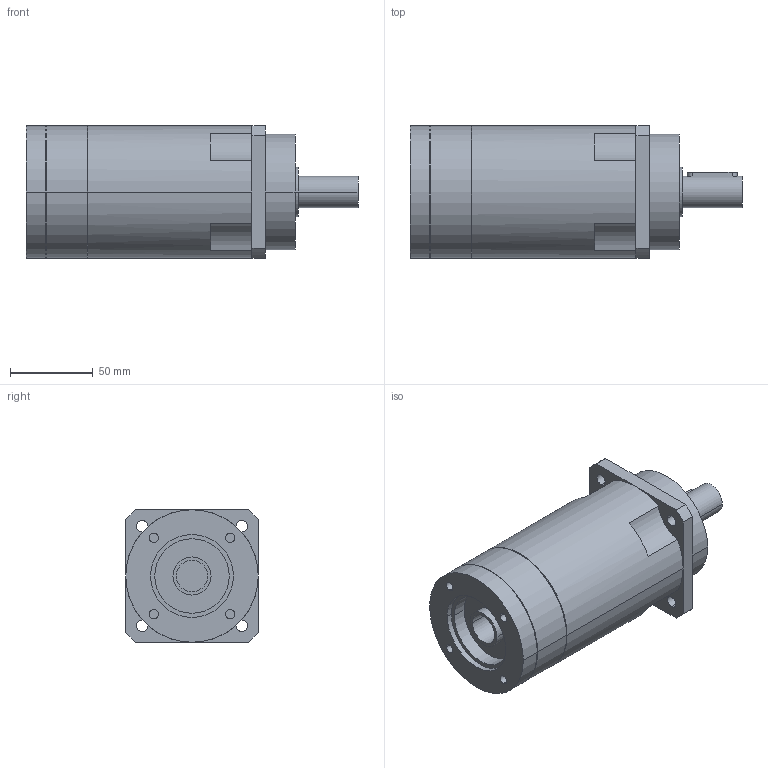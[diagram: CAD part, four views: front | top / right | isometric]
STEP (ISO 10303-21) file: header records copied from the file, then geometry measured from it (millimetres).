
FILE_DESCRIPTION(('CoCreate Modeling STEP Export'),'2;1');
FILE_NAME('GPR100_ig-48-64-80-100-120-144-180-216_19_B5_19_P10.stp','2014-08-26T11:56:51',(''),(''),'CoCreate Modeling STEP processor for AP214 (Solid Model)','CoCreate Modeling 16.00C 25-Feb-2009 (C) Parametric Technology GmbH','');
FILE_SCHEMA(('AUTOMOTIVE_DESIGN { 1 0 10303 214 1 1 1 1 }'));
Length unit declared in the file: millimetre
Products named in the file (2): GPR100_ig-48-64-80-100-120-144-180-216_19_B5_19_P10
Assembly tree (1 placements, depth 2):
  GPR100_ig-48-64-80-100-120-144-180-216_19_B5_19_P10
    GPR100_ig-48-64-80-100-120-144-180-216_19_B5_19_P10
Bounding box: 200.4 x 80 x 80 mm (x, y, z)
Volume: 777816.6 mm3; surface area: 63069.7 mm2
Topology: 1 solids, 1 shells, 96 faces, 253 edges, 175 vertices
Faces by surface type: cylinder 56, plane 34, cone 6
Entity records: 2624 total; most frequent: ORIENTED_EDGE 502, CARTESIAN_POINT 471, DIRECTION 376, EDGE_CURVE 251, VERTEX_POINT 175, AXIS2_PLACEMENT_3D 144, EDGE_LOOP 122, FACE_OUTER_BOUND 96
